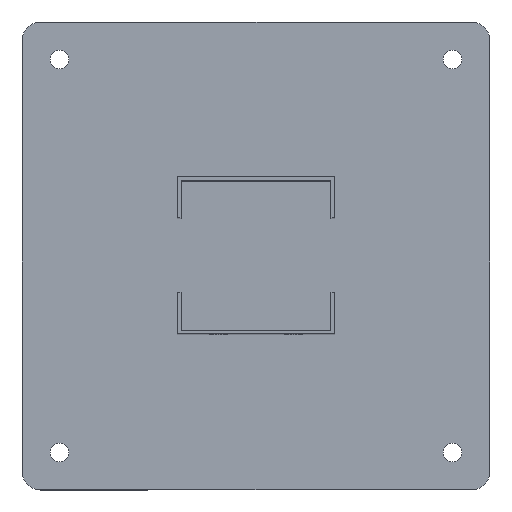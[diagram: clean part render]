
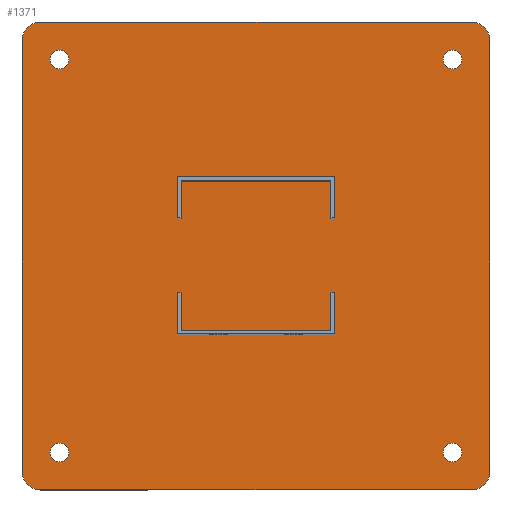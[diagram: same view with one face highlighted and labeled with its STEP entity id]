
A CAD part, top view. The second image highlights one B-rep face of the part: STEP entity #1371.
In plain terms, the highlighted planar face has unit normal (0, 0, 1).
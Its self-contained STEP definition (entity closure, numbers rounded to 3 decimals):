
#475=CARTESIAN_POINT('',(-9.244,84.231,4.0));
#476=VERTEX_POINT('',#475);
#483=CARTESIAN_POINT('',(70.756,84.231,4.0));
#484=VERTEX_POINT('',#483);
#485=CARTESIAN_POINT('',(70.756,84.231,4.0));
#486=DIRECTION('',(-1.0,0.0,0.0));
#487=VECTOR('',#486,80.0);
#488=LINE('',#485,#487);
#489=EDGE_CURVE('',#484,#476,#488,.T.);
#525=CARTESIAN_POINT('',(-9.244,64.231,4.0));
#526=VERTEX_POINT('',#525);
#533=CARTESIAN_POINT('',(-9.244,84.231,4.0));
#534=DIRECTION('',(0.0,-1.0,0.0));
#535=VECTOR('',#534,20.0);
#536=LINE('',#533,#535);
#537=EDGE_CURVE('',#476,#526,#536,.T.);
#556=CARTESIAN_POINT('',(-11.244,64.231,4.0));
#557=VERTEX_POINT('',#556);
#564=CARTESIAN_POINT('',(-9.244,64.231,4.0));
#565=DIRECTION('',(-1.0,0.0,0.0));
#566=VECTOR('',#565,2.0);
#567=LINE('',#564,#566);
#568=EDGE_CURVE('',#526,#557,#567,.T.);
#587=CARTESIAN_POINT('',(-11.244,86.231,4.0));
#588=VERTEX_POINT('',#587);
#595=CARTESIAN_POINT('',(-11.244,64.231,4.0));
#596=DIRECTION('',(0.0,1.0,0.0));
#597=VECTOR('',#596,22.);
#598=LINE('',#595,#597);
#599=EDGE_CURVE('',#557,#588,#598,.T.);
#618=CARTESIAN_POINT('',(72.756,86.231,4.0));
#619=VERTEX_POINT('',#618);
#626=CARTESIAN_POINT('',(-11.244,86.231,4.0));
#627=DIRECTION('',(1.0,0.0,0.0));
#628=VECTOR('',#627,84.);
#629=LINE('',#626,#628);
#630=EDGE_CURVE('',#588,#619,#629,.T.);
#661=CARTESIAN_POINT('',(72.756,64.231,4.0));
#662=VERTEX_POINT('',#661);
#669=CARTESIAN_POINT('',(72.756,86.231,4.0));
#670=DIRECTION('',(0.0,-1.0,0.0));
#671=VECTOR('',#670,22.);
#672=LINE('',#669,#671);
#673=EDGE_CURVE('',#619,#662,#672,.T.);
#692=CARTESIAN_POINT('',(70.756,64.231,4.0));
#693=VERTEX_POINT('',#692);
#700=CARTESIAN_POINT('',(72.756,64.231,4.0));
#701=DIRECTION('',(-1.0,0.0,0.0));
#702=VECTOR('',#701,2.);
#703=LINE('',#700,#702);
#704=EDGE_CURVE('',#662,#693,#703,.T.);
#722=CARTESIAN_POINT('',(70.756,64.231,4.0));
#723=DIRECTION('',(0.0,1.0,0.0));
#724=VECTOR('',#723,20.0);
#725=LINE('',#722,#724);
#726=EDGE_CURVE('',#693,#484,#725,.T.);
#763=CARTESIAN_POINT('',(70.756,24.231,4.0));
#764=VERTEX_POINT('',#763);
#771=CARTESIAN_POINT('',(70.756,4.231,4.0));
#772=VERTEX_POINT('',#771);
#773=CARTESIAN_POINT('',(70.756,4.231,4.0));
#774=DIRECTION('',(0.0,1.0,0.0));
#775=VECTOR('',#774,20.0);
#776=LINE('',#773,#775);
#777=EDGE_CURVE('',#772,#764,#776,.T.);
#801=CARTESIAN_POINT('',(72.756,24.231,4.0));
#802=VERTEX_POINT('',#801);
#809=CARTESIAN_POINT('',(70.756,24.231,4.0));
#810=DIRECTION('',(1.0,0.0,0.0));
#811=VECTOR('',#810,2.0);
#812=LINE('',#809,#811);
#813=EDGE_CURVE('',#764,#802,#812,.T.);
#832=CARTESIAN_POINT('',(72.756,2.231,4.0));
#833=VERTEX_POINT('',#832);
#840=CARTESIAN_POINT('',(72.756,24.231,4.0));
#841=DIRECTION('',(0.0,-1.0,0.0));
#842=VECTOR('',#841,22.);
#843=LINE('',#840,#842);
#844=EDGE_CURVE('',#802,#833,#843,.T.);
#863=CARTESIAN_POINT('',(-11.244,2.231,4.0));
#864=VERTEX_POINT('',#863);
#871=CARTESIAN_POINT('',(72.756,2.231,4.0));
#872=DIRECTION('',(-1.0,0.0,0.0));
#873=VECTOR('',#872,84.);
#874=LINE('',#871,#873);
#875=EDGE_CURVE('',#833,#864,#874,.T.);
#906=CARTESIAN_POINT('',(-11.244,24.231,4.0));
#907=VERTEX_POINT('',#906);
#914=CARTESIAN_POINT('',(-11.244,2.231,4.0));
#915=DIRECTION('',(0.0,1.0,0.0));
#916=VECTOR('',#915,22.);
#917=LINE('',#914,#916);
#918=EDGE_CURVE('',#864,#907,#917,.T.);
#937=CARTESIAN_POINT('',(-9.244,24.231,4.0));
#938=VERTEX_POINT('',#937);
#945=CARTESIAN_POINT('',(-11.244,24.231,4.0));
#946=DIRECTION('',(1.0,0.0,0.0));
#947=VECTOR('',#946,2.0);
#948=LINE('',#945,#947);
#949=EDGE_CURVE('',#907,#938,#948,.T.);
#968=CARTESIAN_POINT('',(-9.244,4.231,4.0));
#969=VERTEX_POINT('',#968);
#976=CARTESIAN_POINT('',(-9.244,24.231,4.0));
#977=DIRECTION('',(0.0,-1.0,0.0));
#978=VECTOR('',#977,20.0);
#979=LINE('',#976,#978);
#980=EDGE_CURVE('',#938,#969,#979,.T.);
#998=CARTESIAN_POINT('',(-9.244,4.231,4.0));
#999=DIRECTION('',(1.0,0.0,0.0));
#1000=VECTOR('',#999,80.0);
#1001=LINE('',#998,#1000);
#1002=EDGE_CURVE('',#969,#772,#1001,.T.);
#1073=CARTESIAN_POINT('',(140.756,-60.769,4.0));
#1074=VERTEX_POINT('',#1073);
#1075=CARTESIAN_POINT('',(135.756,-60.769,4.));
#1076=DIRECTION('',(0.0,0.0,-1.0));
#1077=DIRECTION('',(1.0,0.0,0.0));
#1078=AXIS2_PLACEMENT_3D('',#1075,#1076,#1077);
#1079=CIRCLE('',#1078,5.0);
#1080=EDGE_CURVE('',#1074,#1074,#1079,.T.);
#1122=CARTESIAN_POINT('',(140.756,149.231,4.0));
#1123=VERTEX_POINT('',#1122);
#1124=CARTESIAN_POINT('',(135.756,149.231,4.));
#1125=DIRECTION('',(0.0,0.0,-1.0));
#1126=DIRECTION('',(1.0,0.0,0.0));
#1127=AXIS2_PLACEMENT_3D('',#1124,#1125,#1126);
#1128=CIRCLE('',#1127,5.0);
#1129=EDGE_CURVE('',#1123,#1123,#1128,.T.);
#1171=CARTESIAN_POINT('',(-69.244,149.231,4.0));
#1172=VERTEX_POINT('',#1171);
#1173=CARTESIAN_POINT('',(-74.244,149.231,4.));
#1174=DIRECTION('',(0.0,0.0,-1.0));
#1175=DIRECTION('',(1.0,0.0,0.0));
#1176=AXIS2_PLACEMENT_3D('',#1173,#1174,#1175);
#1177=CIRCLE('',#1176,5.0);
#1178=EDGE_CURVE('',#1172,#1172,#1177,.T.);
#1220=CARTESIAN_POINT('',(-69.244,-60.769,4.0));
#1221=VERTEX_POINT('',#1220);
#1222=CARTESIAN_POINT('',(-74.244,-60.769,4.));
#1223=DIRECTION('',(0.0,0.0,-1.0));
#1224=DIRECTION('',(1.0,0.0,0.0));
#1225=AXIS2_PLACEMENT_3D('',#1222,#1223,#1224);
#1226=CIRCLE('',#1225,5.0);
#1227=EDGE_CURVE('',#1221,#1221,#1226,.T.);
#1237=CARTESIAN_POINT('',(145.756,169.231,4.0));
#1238=VERTEX_POINT('',#1237);
#1239=CARTESIAN_POINT('',(155.756,159.231,4.0));
#1240=VERTEX_POINT('',#1239);
#1241=CARTESIAN_POINT('',(145.756,159.231,4.0));
#1242=DIRECTION('',(0.0,0.0,-1.));
#1243=DIRECTION('',(0.707,0.707,0.0));
#1244=AXIS2_PLACEMENT_3D('',#1241,#1242,#1243);
#1245=CIRCLE('',#1244,10.);
#1246=EDGE_CURVE('',#1238,#1240,#1245,.T.);
#1274=CARTESIAN_POINT('',(30.756,44.231,4.0));
#1275=DIRECTION('',(0.0,0.0,1.0));
#1276=DIRECTION('',(1.0,0.0,0.0));
#1277=AXIS2_PLACEMENT_3D('',#1274,#1275,#1276);
#1278=PLANE('',#1277);
#1279=ORIENTED_EDGE('',*,*,#1246,.F.);
#1280=CARTESIAN_POINT('',(-84.244,169.231,4.0));
#1281=VERTEX_POINT('',#1280);
#1282=CARTESIAN_POINT('',(-84.244,169.231,4.0));
#1283=DIRECTION('',(1.0,0.0,0.0));
#1284=VECTOR('',#1283,230.);
#1285=LINE('',#1282,#1284);
#1286=EDGE_CURVE('',#1281,#1238,#1285,.T.);
#1287=ORIENTED_EDGE('',*,*,#1286,.F.);
#1288=CARTESIAN_POINT('',(-94.244,159.231,4.0));
#1289=VERTEX_POINT('',#1288);
#1290=CARTESIAN_POINT('',(-84.244,159.231,4.0));
#1291=DIRECTION('',(0.0,0.0,-1.));
#1292=DIRECTION('',(-0.707,0.707,0.0));
#1293=AXIS2_PLACEMENT_3D('',#1290,#1291,#1292);
#1294=CIRCLE('',#1293,10.);
#1295=EDGE_CURVE('',#1289,#1281,#1294,.T.);
#1296=ORIENTED_EDGE('',*,*,#1295,.F.);
#1297=CARTESIAN_POINT('',(-94.244,-70.769,4.0));
#1298=VERTEX_POINT('',#1297);
#1299=CARTESIAN_POINT('',(-94.244,-70.769,4.0));
#1300=DIRECTION('',(0.0,1.0,0.0));
#1301=VECTOR('',#1300,230.0);
#1302=LINE('',#1299,#1301);
#1303=EDGE_CURVE('',#1298,#1289,#1302,.T.);
#1304=ORIENTED_EDGE('',*,*,#1303,.F.);
#1305=CARTESIAN_POINT('',(-84.244,-80.769,4.0));
#1306=VERTEX_POINT('',#1305);
#1307=CARTESIAN_POINT('',(-84.244,-70.769,4.0));
#1308=DIRECTION('',(0.0,0.0,-1.));
#1309=DIRECTION('',(-0.707,-0.707,0.0));
#1310=AXIS2_PLACEMENT_3D('',#1307,#1308,#1309);
#1311=CIRCLE('',#1310,10.);
#1312=EDGE_CURVE('',#1306,#1298,#1311,.T.);
#1313=ORIENTED_EDGE('',*,*,#1312,.F.);
#1314=CARTESIAN_POINT('',(145.756,-80.769,4.0));
#1315=VERTEX_POINT('',#1314);
#1316=CARTESIAN_POINT('',(145.756,-80.769,4.0));
#1317=DIRECTION('',(-1.0,0.0,0.0));
#1318=VECTOR('',#1317,230.0);
#1319=LINE('',#1316,#1318);
#1320=EDGE_CURVE('',#1315,#1306,#1319,.T.);
#1321=ORIENTED_EDGE('',*,*,#1320,.F.);
#1322=CARTESIAN_POINT('',(155.756,-70.769,4.0));
#1323=VERTEX_POINT('',#1322);
#1324=CARTESIAN_POINT('',(145.756,-70.769,4.0));
#1325=DIRECTION('',(0.0,0.0,-1.));
#1326=DIRECTION('',(0.707,-0.707,0.0));
#1327=AXIS2_PLACEMENT_3D('',#1324,#1325,#1326);
#1328=CIRCLE('',#1327,10.);
#1329=EDGE_CURVE('',#1323,#1315,#1328,.T.);
#1330=ORIENTED_EDGE('',*,*,#1329,.F.);
#1331=CARTESIAN_POINT('',(155.756,159.231,4.0));
#1332=DIRECTION('',(0.0,-1.0,0.0));
#1333=VECTOR('',#1332,230.0);
#1334=LINE('',#1331,#1333);
#1335=EDGE_CURVE('',#1240,#1323,#1334,.T.);
#1336=ORIENTED_EDGE('',*,*,#1335,.F.);
#1337=EDGE_LOOP('',(#1279,#1287,#1296,#1304,#1313,#1321,#1330,#1336));
#1338=FACE_OUTER_BOUND('',#1337,.T.);
#1339=ORIENTED_EDGE('',*,*,#489,.T.);
#1340=ORIENTED_EDGE('',*,*,#537,.T.);
#1341=ORIENTED_EDGE('',*,*,#568,.T.);
#1342=ORIENTED_EDGE('',*,*,#599,.T.);
#1343=ORIENTED_EDGE('',*,*,#630,.T.);
#1344=ORIENTED_EDGE('',*,*,#673,.T.);
#1345=ORIENTED_EDGE('',*,*,#704,.T.);
#1346=ORIENTED_EDGE('',*,*,#726,.T.);
#1347=EDGE_LOOP('',(#1339,#1340,#1341,#1342,#1343,#1344,#1345,#1346));
#1348=FACE_BOUND('',#1347,.T.);
#1349=ORIENTED_EDGE('',*,*,#777,.T.);
#1350=ORIENTED_EDGE('',*,*,#813,.T.);
#1351=ORIENTED_EDGE('',*,*,#844,.T.);
#1352=ORIENTED_EDGE('',*,*,#875,.T.);
#1353=ORIENTED_EDGE('',*,*,#918,.T.);
#1354=ORIENTED_EDGE('',*,*,#949,.T.);
#1355=ORIENTED_EDGE('',*,*,#980,.T.);
#1356=ORIENTED_EDGE('',*,*,#1002,.T.);
#1357=EDGE_LOOP('',(#1349,#1350,#1351,#1352,#1353,#1354,#1355,#1356));
#1358=FACE_BOUND('',#1357,.T.);
#1359=ORIENTED_EDGE('',*,*,#1080,.T.);
#1360=EDGE_LOOP('',(#1359));
#1361=FACE_BOUND('',#1360,.T.);
#1362=ORIENTED_EDGE('',*,*,#1129,.T.);
#1363=EDGE_LOOP('',(#1362));
#1364=FACE_BOUND('',#1363,.T.);
#1365=ORIENTED_EDGE('',*,*,#1178,.T.);
#1366=EDGE_LOOP('',(#1365));
#1367=FACE_BOUND('',#1366,.T.);
#1368=ORIENTED_EDGE('',*,*,#1227,.T.);
#1369=EDGE_LOOP('',(#1368));
#1370=FACE_BOUND('',#1369,.T.);
#1371=ADVANCED_FACE('',(#1338,#1348,#1358,#1361,#1364,#1367,#1370),#1278,.T.);
